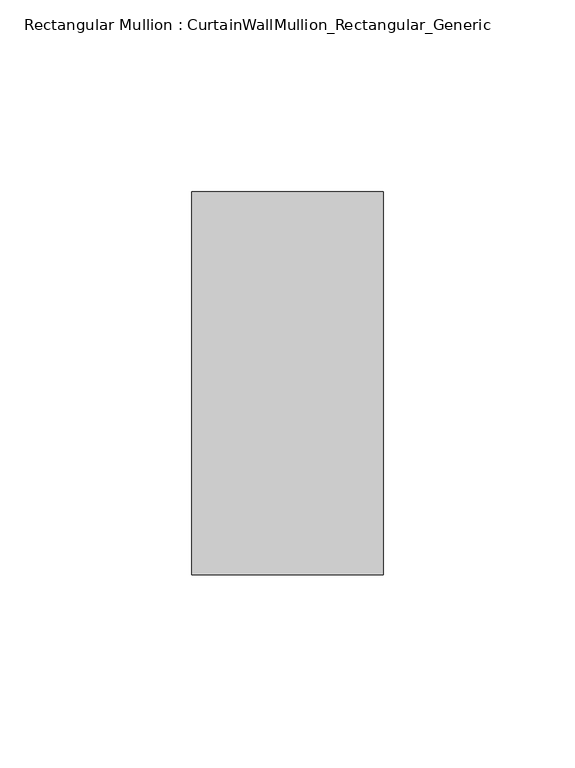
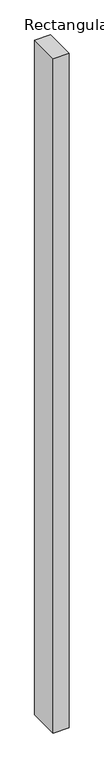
"""IFC4 building model written with IfcOpenShell, lengths in millimetres: member geometry, Rectangular Mullion : CurtainWallMullion_Rectangular_Generic."""

from ifc_helpers import new_model, si_unit, frame, origin, place, context, project, spatial, polyline, outline, extrude, source, transform, mapped, element, save


def rectangular_mullion_curtainwallmullion_rectangular_generic_bb021e59(model_context):
    return source(origin(), model_context, "Body", "SweptSolid", [
        extrude(outline(polyline([(25.0, 50.0), (25.0, -50.0), (-25.0, -50.0), (-25.0, 50.0), (25.0, 50.0)])), frame((0.0, 0.0, -2227.2000002), z_axis=(0.0, 0.0, 1.0), x_axis=(1.0, 0.0, 0.0)), (0.0, 0.0, 1.0), 2227.2000002),
    ])


if __name__ == "__main__":
    model = new_model("IFC4")
    model_context = context("Model", 3, world=origin())
    ifc_project = project(units=[si_unit("LENGTHUNIT", "METRE", prefix="MILLI")], contexts=[model_context])
    site = spatial("IfcSite", under=ifc_project)
    building = spatial("IfcBuilding", under=site)
    placement = place(None, origin())
    rectangular_mullion_curtainwallmullion_rectangular_generic_shape = rectangular_mullion_curtainwallmullion_rectangular_generic_bb021e59(model_context)
    element("IfcMember", 1, ObjectType="Rectangular Mullion : CurtainWallMullion_Rectangular_Generic", at=placement, inside=building, context=model_context, shape_type="MappedRepresentation", body=[
        mapped(rectangular_mullion_curtainwallmullion_rectangular_generic_shape, transform((0.0, 0.0, 0.0), x_axis=(1.0, 0.0, 0.0), y_axis=(0.0, 1.0, 0.0), z_axis=(0.0, 0.0, 1.0))),
    ])
    save(model, "model.ifc")
